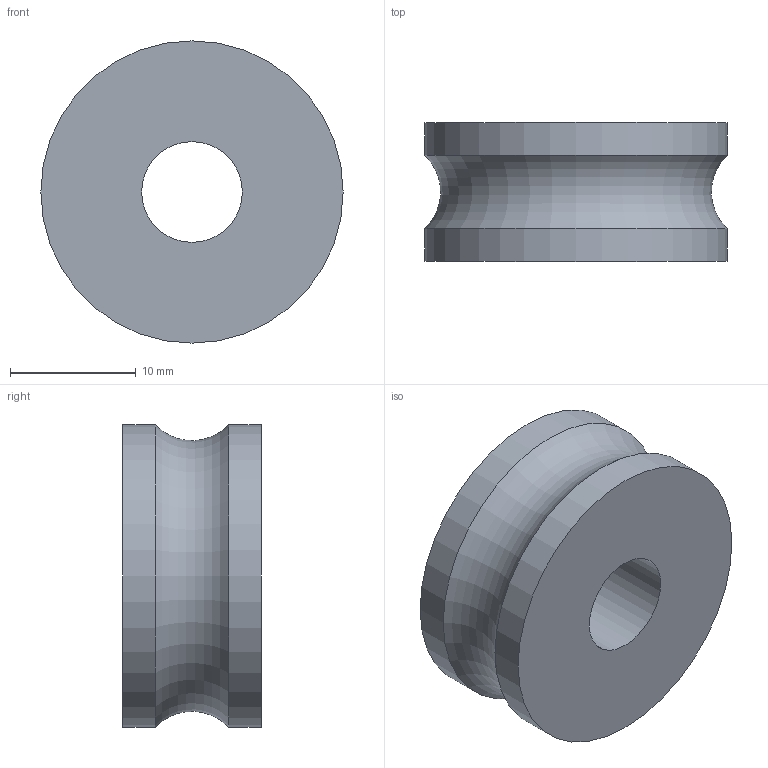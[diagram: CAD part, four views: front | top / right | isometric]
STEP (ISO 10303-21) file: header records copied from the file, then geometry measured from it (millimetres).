
FILE_DESCRIPTION (( 'STEP AP214' ), '1' );
FILE_NAME ('LFR50／8KDD-8.STEP', '2020-05-12T01:53:16', ( '' ), ( '' ), 'SwSTEP 2.0', 'SolidWorks 2019', '' );
FILE_SCHEMA (( 'AUTOMOTIVE_DESIGN' ));
Length unit declared in the file: millimetre
Products named in the file (1): LFR50／8KDD-8
Bounding box: 24 x 11 x 24 mm (x, y, z)
Volume: 4061.2 mm3; surface area: 1928.6 mm2
Topology: 1 solids, 1 shells, 6 faces, 10 edges, 6 vertices
Faces by surface type: cylinder 3, plane 2, torus 1
Full cylindrical faces by diameter (mm): 8 x1, 24 x2
Entity records: 162 total; most frequent: DIRECTION 26, CARTESIAN_POINT 19, AXIS2_PLACEMENT_3D 13, EDGE_LOOP 12, ORIENTED_EDGE 12, FACE_OUTER_BOUND 10, CIRCLE 6, VERTEX_POINT 6
